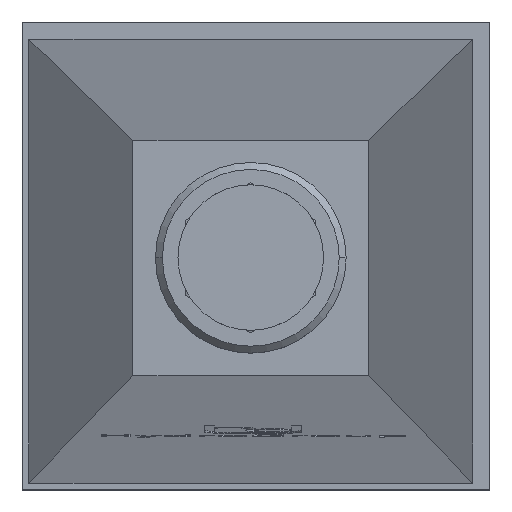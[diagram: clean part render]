
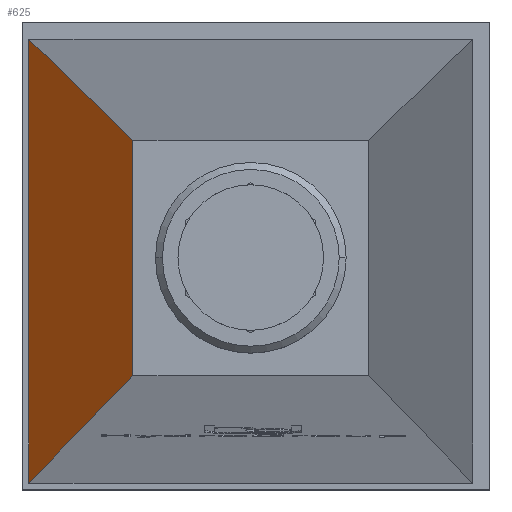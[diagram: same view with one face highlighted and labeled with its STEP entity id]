
A CAD part, top view. The second image highlights one B-rep face of the part: STEP entity #625.
In plain terms, the highlighted planar face has unit normal (-0.999, 0, 0.055).
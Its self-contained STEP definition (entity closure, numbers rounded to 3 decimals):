
#625=ADVANCED_FACE('',(#1284),#1285,.F.);
#1284=FACE_OUTER_BOUND('',#2019,.T.);
#1285=PLANE('',#2020);
#2019=EDGE_LOOP('',(#3919,#3920,#3921,#3922));
#2020=AXIS2_PLACEMENT_3D('',#3923,#3924,#3925);
#3919=ORIENTED_EDGE('',*,*,#4894,.F.);
#3920=ORIENTED_EDGE('',*,*,#4652,.F.);
#3921=ORIENTED_EDGE('',*,*,#4917,.F.);
#3922=ORIENTED_EDGE('',*,*,#4928,.T.);
#3923=CARTESIAN_POINT('',(109.191,147.729,1087.866));
#3924=DIRECTION('',(0.998,0.,-0.055));
#3925=DIRECTION('',(0.,-1.0,0.));
#4652=EDGE_CURVE('',#5600,#5596,#5602,.T.);
#4894=EDGE_CURVE('',#5596,#5920,#5921,.F.);
#4917=EDGE_CURVE('',#5951,#5600,#5953,.T.);
#4928=EDGE_CURVE('',#5951,#5920,#5966,.T.);
#5596=VERTEX_POINT('',#7141);
#5600=VERTEX_POINT('',#7147);
#5602=LINE('',#7150,#7151);
#5920=VERTEX_POINT('',#7728);
#5921=LINE('',#7729,#7730);
#5951=VERTEX_POINT('',#7774);
#5953=LINE('',#7777,#7778);
#5966=LINE('',#7796,#7797);
#7141=CARTESIAN_POINT('',(49.181,84.724,5.7));
#7147=CARTESIAN_POINT('',(109.181,144.724,1087.7));
#7150=CARTESIAN_POINT('',(109.398,144.941,1091.614));
#7151=VECTOR('',#8457,1.);
#7728=CARTESIAN_POINT('',(49.181,340.733,5.7));
#7729=CARTESIAN_POINT('',(49.181,180.229,5.7));
#7730=VECTOR('',#8629,1.0);
#7774=CARTESIAN_POINT('',(109.181,280.733,1087.7));
#7777=CARTESIAN_POINT('',(109.181,180.229,1087.7));
#7778=VECTOR('',#8645,1.0);
#7796=CARTESIAN_POINT('',(109.398,280.516,1091.614));
#7797=VECTOR('',#8651,1.);
#8457=DIRECTION('',(-0.055,-0.055,-0.997));
#8629=DIRECTION('',(0.,-1.0,0.));
#8645=DIRECTION('',(0.,-1.0,0.));
#8651=DIRECTION('',(-0.055,0.055,-0.997));
